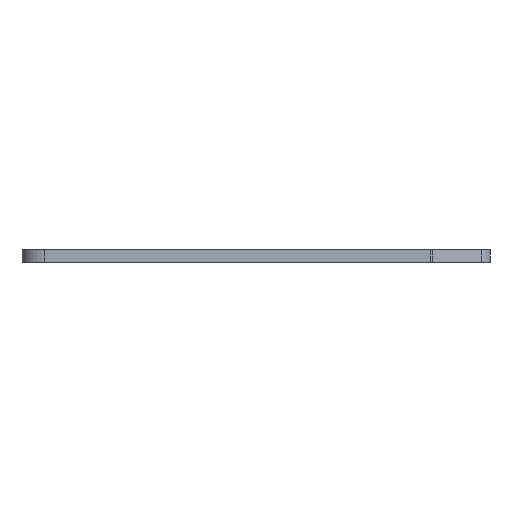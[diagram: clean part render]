
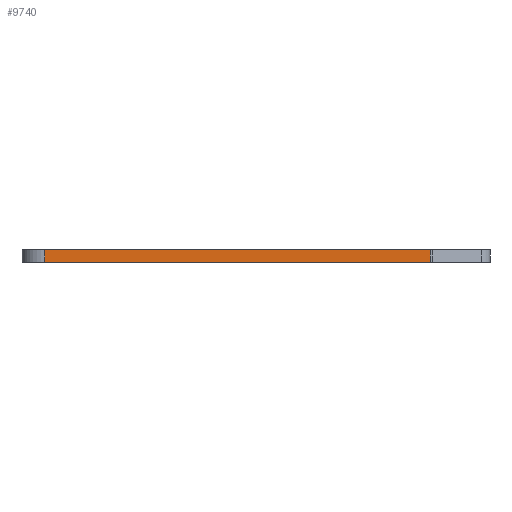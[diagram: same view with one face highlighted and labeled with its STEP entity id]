
A CAD part, front view. The second image highlights one B-rep face of the part: STEP entity #9740.
In plain terms, the highlighted planar face has unit normal (0, -1, 0).
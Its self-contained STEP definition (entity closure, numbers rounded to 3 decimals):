
#9220=CARTESIAN_POINT('',(21.535,-10.,
10.65));
#9230=VERTEX_POINT('',#9220);
#9260=CARTESIAN_POINT('',(21.535,-10.,
12.85));
#9270=DIRECTION('',(0.,0.,-1.));
#9280=VECTOR('',#9270,1.);
#9290=LINE('',#9260,#9280);
#9300=CARTESIAN_POINT('',(21.535,-10.,
12.85));
#9310=VERTEX_POINT('',#9300);
#9320=EDGE_CURVE('',#9310,#9230,#9290,.T.);
#9440=CARTESIAN_POINT('',(-46.4,-10.,
12.85));
#9450=DIRECTION('',(0.,-1.,0.));
#9460=DIRECTION('',(-1.,0.,0.));
#9470=AXIS2_PLACEMENT_3D('',#9440,#9450,#9460);
#9480=PLANE('',#9470);
#9490=ORIENTED_EDGE('',*,*,#9320,.F.);
#9500=CARTESIAN_POINT('',(-11.209,-10.,
10.65));
#9510=DIRECTION('',(-1.,0.,0.));
#9520=VECTOR('',#9510,1.);
#9530=LINE('',#9500,#9520);
#9540=CARTESIAN_POINT('',(-46.4,-10.,
10.65));
#9550=VERTEX_POINT('',#9540);
#9560=EDGE_CURVE('',#9230,#9550,#9530,.T.);
#9570=ORIENTED_EDGE('',*,*,#9560,.F.);
#9580=CARTESIAN_POINT('',(-46.4,-10.,
12.85));
#9590=DIRECTION('',(0.,0.,-1.));
#9600=VECTOR('',#9590,1.);
#9610=LINE('',#9580,#9600);
#9620=CARTESIAN_POINT('',(-46.4,-10.,
12.85));
#9630=VERTEX_POINT('',#9620);
#9640=EDGE_CURVE('',#9630,#9550,#9610,.T.);
#9650=ORIENTED_EDGE('',*,*,#9640,.T.);
#9660=CARTESIAN_POINT('',(-11.209,-10.,
12.85));
#9670=DIRECTION('',(-1.,0.,0.));
#9680=VECTOR('',#9670,1.);
#9690=LINE('',#9660,#9680);
#9700=EDGE_CURVE('',#9310,#9630,#9690,.T.);
#9710=ORIENTED_EDGE('',*,*,#9700,.T.);
#9720=EDGE_LOOP('',(#9710,#9650,#9570,#9490));
#9730=FACE_OUTER_BOUND('',#9720,.T.);
#9740=ADVANCED_FACE('',(#9730),#9480,.T.);
